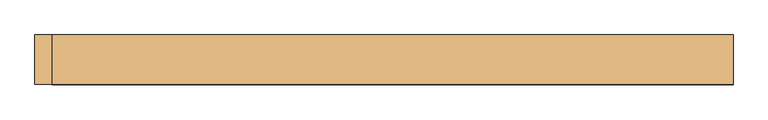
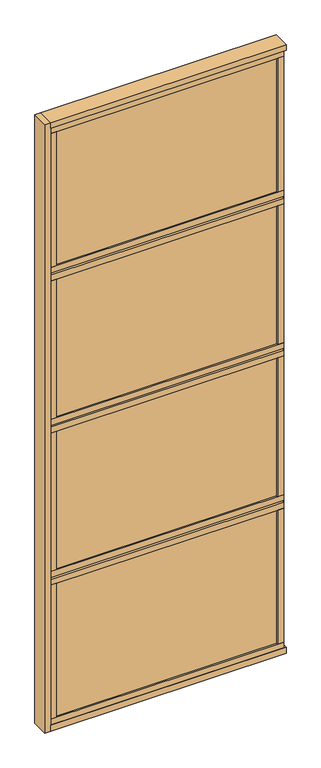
"""IFC4 building model written with IfcOpenShell, lengths in millimetres: door geometry, Mobiliário_Mobiliário de Escritório_Painel de Vidro Duplo - AV4T (Inicial e Final)_Marelli : AV4T - Temperado."""

from ifc_helpers import new_model, si_unit, frame, origin, origin_with_axes, place, context, project, spatial, polyline, outline, extrude, source, transform, mapped, element, save


def door_d465d236(model_context):
    return source(origin(), model_context, "Body", "SweptSolid", [
        extrude(outline(polyline([(600.0, 42.5), (600.0, -42.5), (-570.0, -42.5), (-570.0, 42.5), (600.0, 42.5)])), origin_with_axes(), (0.0, 0.0, 1.0), 30.0),
        extrude(outline(polyline([(590.0, 39.5), (590.0, -39.5), (-570.0, -39.5), (-570.0, 39.5), (590.0, 39.5)])), frame((0.0, 0.0, 2405.0), z_axis=(0.0, 0.0, 1.0), x_axis=(1.0, 0.0, 0.0)), (0.0, 0.0, 1.0), 30.0),
        extrude(outline(polyline([(-540.0, 39.5), (-540.0, -39.5), (-570.0, -39.5), (-570.0, 39.5), (-540.0, 39.5)])), frame((0.0, 0.0, 2435.0), z_axis=(0.0, 0.0, 1.0), x_axis=(1.0, 0.0, 0.0)), (0.0, 0.0, 1.0), 705.0),
        extrude(outline(polyline([(560.0, 39.5), (590.0, 39.5), (590.0, -39.5), (560.0, -39.5), (560.0, 39.5)])), frame((0.0, 0.0, 2435.0), z_axis=(0.0, 0.0, 1.0), x_axis=(1.0, 0.0, 0.0)), (0.0, 0.0, 1.0), 705.0),
        extrude(outline(polyline([(560.0, -25.5), (560.0, -31.5), (-540.0, -31.5), (-540.0, -25.5), (560.0, -25.5)])), frame((0.0, 0.0, 2435.0), z_axis=(0.0, 0.0, 1.0), x_axis=(1.0, 0.0, 0.0)), (0.0, 0.0, 1.0), 705.0),
        extrude(outline(polyline([(590.0, 21.5), (590.0, -21.5), (-570.0, -21.5), (-570.0, 21.5), (590.0, 21.5)])), frame((0.0, 0.0, 2395.0), z_axis=(0.0, 0.0, 1.0), x_axis=(1.0, 0.0, 0.0)), (0.0, 0.0, 1.0), 10.0),
        extrude(outline(polyline([(590.0, 21.5), (590.0, -21.5), (-570.0, -21.5), (-570.0, 21.5), (590.0, 21.5)])), frame((0.0, 0.0, 1595.0), z_axis=(0.0, 0.0, 1.0), x_axis=(1.0, 0.0, 0.0)), (0.0, 0.0, 1.0), 10.0),
        extrude(outline(polyline([(590.0, 21.5), (590.0, -21.5), (-570.0, -21.5), (-570.0, 21.5), (590.0, 21.5)])), frame((0.0, 0.0, 795.0), z_axis=(0.0, 0.0, 1.0), x_axis=(1.0, 0.0, 0.0)), (0.0, 0.0, 1.0), 10.0),
        extrude(outline(polyline([(590.0, 39.5), (590.0, -39.5), (-570.0, -39.5), (-570.0, 39.5), (590.0, 39.5)])), frame((0.0, 0.0, 1605.0), z_axis=(0.0, 0.0, 1.0), x_axis=(1.0, 0.0, 0.0)), (0.0, 0.0, 1.0), 30.0),
        extrude(outline(polyline([(590.0, 39.5), (590.0, -39.5), (-570.0, -39.5), (-570.0, 39.5), (590.0, 39.5)])), frame((0.0, 0.0, 2365.0), z_axis=(0.0, 0.0, 1.0), x_axis=(1.0, 0.0, 0.0)), (0.0, 0.0, 1.0), 30.0),
        extrude(outline(polyline([(590.0, 39.5), (590.0, -39.5), (-570.0, -39.5), (-570.0, 39.5), (590.0, 39.5)])), frame((0.0, 0.0, 1565.0), z_axis=(0.0, 0.0, 1.0), x_axis=(1.0, 0.0, 0.0)), (0.0, 0.0, 1.0), 30.0),
        extrude(outline(polyline([(590.0, 39.5), (590.0, -39.5), (-570.0, -39.5), (-570.0, 39.5), (590.0, 39.5)])), frame((0.0, 0.0, 805.0), z_axis=(0.0, 0.0, 1.0), x_axis=(1.0, 0.0, 0.0)), (0.0, 0.0, 1.0), 30.0),
        extrude(outline(polyline([(-540.0, 39.5), (-540.0, -39.5), (-570.0, -39.5), (-570.0, 39.5), (-540.0, 39.5)])), frame((0.0, 0.0, 60.0), z_axis=(0.0, 0.0, 1.0), x_axis=(1.0, 0.0, 0.0)), (0.0, 0.0, 1.0), 705.0),
        extrude(outline(polyline([(560.0, 39.5), (590.0, 39.5), (590.0, -39.5), (560.0, -39.5), (560.0, 39.5)])), frame((0.0, 0.0, 60.0), z_axis=(0.0, 0.0, 1.0), x_axis=(1.0, 0.0, 0.0)), (0.0, 0.0, 1.0), 705.0),
        extrude(outline(polyline([(590.0, 39.5), (590.0, -39.5), (-570.0, -39.5), (-570.0, 39.5), (590.0, 39.5)])), frame((0.0, 0.0, 765.0), z_axis=(0.0, 0.0, 1.0), x_axis=(1.0, 0.0, 0.0)), (0.0, 0.0, 1.0), 30.0),
        extrude(outline(polyline([(590.0, 39.5), (590.0, -39.5), (-570.0, -39.5), (-570.0, 39.5), (590.0, 39.5)])), frame((0.0, 0.0, 30.0), z_axis=(0.0, 0.0, 1.0), x_axis=(1.0, 0.0, 0.0)), (0.0, 0.0, 1.0), 30.0),
        extrude(outline(polyline([(560.0, -25.5), (560.0, -31.5), (-540.0, -31.5), (-540.0, -25.5), (560.0, -25.5)])), frame((0.0, 0.0, 60.0), z_axis=(0.0, 0.0, 1.0), x_axis=(1.0, 0.0, 0.0)), (0.0, 0.0, 1.0), 705.0),
        extrude(outline(polyline([(560.0, 31.5), (560.0, 25.5), (-540.0, 25.5), (-540.0, 31.5), (560.0, 31.5)])), frame((0.0, 0.0, 2435.0), z_axis=(0.0, 0.0, 1.0), x_axis=(1.0, 0.0, 0.0)), (0.0, 0.0, 1.0), 705.0),
        extrude(outline(polyline([(560.0, 31.5), (560.0, 25.5), (-540.0, 25.5), (-540.0, 31.5), (560.0, 31.5)])), frame((0.0, 0.0, 60.0), z_axis=(0.0, 0.0, 1.0), x_axis=(1.0, 0.0, 0.0)), (0.0, 0.0, 1.0), 705.0),
        extrude(outline(polyline([(600.0, 42.5), (600.0, -42.5), (-570.0, -42.5), (-570.0, 42.5), (600.0, 42.5)])), frame((0.0, 0.0, 3170.0), z_axis=(0.0, 0.0, 1.0), x_axis=(1.0, 0.0, 0.0)), (0.0, 0.0, 1.0), 30.0),
        extrude(outline(polyline([(590.0, 39.5), (590.0, -39.5), (-570.0, -39.5), (-570.0, 39.5), (590.0, 39.5)])), frame((0.0, 0.0, 3140.0), z_axis=(0.0, 0.0, 1.0), x_axis=(1.0, 0.0, 0.0)), (0.0, 0.0, 1.0), 30.0),
        extrude(outline(polyline([(-600.0, -42.5), (-600.0, 42.5), (-570.0, 42.5), (-570.0, -42.5), (-600.0, -42.5)])), origin_with_axes(), (0.0, 0.0, 1.0), 3200.0),
        extrude(outline(polyline([(590.0, 21.5), (600.0, 21.5), (600.0, -21.5), (590.0, -21.5), (590.0, 21.5)])), frame((0.0, 0.0, 30.0), z_axis=(0.0, 0.0, 1.0), x_axis=(1.0, 0.0, 0.0)), (0.0, 0.0, 1.0), 3140.0),
        extrude(outline(polyline([(-540.0, 39.5), (-540.0, -39.5), (-570.0, -39.5), (-570.0, 39.5), (-540.0, 39.5)])), frame((0.0, 0.0, 1635.0), z_axis=(0.0, 0.0, 1.0), x_axis=(1.0, 0.0, 0.0)), (0.0, 0.0, 1.0), 730.0),
        extrude(outline(polyline([(560.0, 39.5), (590.0, 39.5), (590.0, -39.5), (560.0, -39.5), (560.0, 39.5)])), frame((0.0, 0.0, 1635.0), z_axis=(0.0, 0.0, 1.0), x_axis=(1.0, 0.0, 0.0)), (0.0, 0.0, 1.0), 730.0),
        extrude(outline(polyline([(560.0, -25.5), (560.0, -31.5), (-540.0, -31.5), (-540.0, -25.5), (560.0, -25.5)])), frame((0.0, 0.0, 1635.0), z_axis=(0.0, 0.0, 1.0), x_axis=(1.0, 0.0, 0.0)), (0.0, 0.0, 1.0), 730.0),
        extrude(outline(polyline([(560.0, 31.5), (560.0, 25.5), (-540.0, 25.5), (-540.0, 31.5), (560.0, 31.5)])), frame((0.0, 0.0, 1635.0), z_axis=(0.0, 0.0, 1.0), x_axis=(1.0, 0.0, 0.0)), (0.0, 0.0, 1.0), 730.0),
        extrude(outline(polyline([(-540.0, 39.5), (-540.0, -39.5), (-570.0, -39.5), (-570.0, 39.5), (-540.0, 39.5)])), frame((0.0, 0.0, 835.0), z_axis=(0.0, 0.0, 1.0), x_axis=(1.0, 0.0, 0.0)), (0.0, 0.0, 1.0), 730.0),
        extrude(outline(polyline([(560.0, 39.5), (590.0, 39.5), (590.0, -39.5), (560.0, -39.5), (560.0, 39.5)])), frame((0.0, 0.0, 835.0), z_axis=(0.0, 0.0, 1.0), x_axis=(1.0, 0.0, 0.0)), (0.0, 0.0, 1.0), 730.0),
        extrude(outline(polyline([(560.0, -25.5), (560.0, -31.5), (-540.0, -31.5), (-540.0, -25.5), (560.0, -25.5)])), frame((0.0, 0.0, 835.0), z_axis=(0.0, 0.0, 1.0), x_axis=(1.0, 0.0, 0.0)), (0.0, 0.0, 1.0), 730.0),
        extrude(outline(polyline([(560.0, 31.5), (560.0, 25.5), (-540.0, 25.5), (-540.0, 31.5), (560.0, 31.5)])), frame((0.0, 0.0, 835.0), z_axis=(0.0, 0.0, 1.0), x_axis=(1.0, 0.0, 0.0)), (0.0, 0.0, 1.0), 730.0),
    ])


if __name__ == "__main__":
    model = new_model("IFC4")
    model_context = context("Model", 3, world=origin())
    ifc_project = project(units=[si_unit("LENGTHUNIT", "METRE", prefix="MILLI")], contexts=[model_context])
    site = spatial("IfcSite", under=ifc_project)
    building = spatial("IfcBuilding", under=site)
    placement = place(None, origin())
    door_shape = door_d465d236(model_context)
    element("IfcDoor", 1, ObjectType="Mobiliário_Mobiliário de Escritório_Painel de Vidro Duplo - AV4T (Inicial e Final)_Marelli : AV4T - Temperado", at=placement, inside=building, context=model_context, shape_type="MappedRepresentation", body=[
        mapped(door_shape, transform((0.0, 0.0, 0.0), x_axis=(1.0, 0.0, 0.0), y_axis=(0.0, 1.0, 0.0), z_axis=(0.0, 0.0, 1.0))),
    ])
    save(model, "model.ifc")
